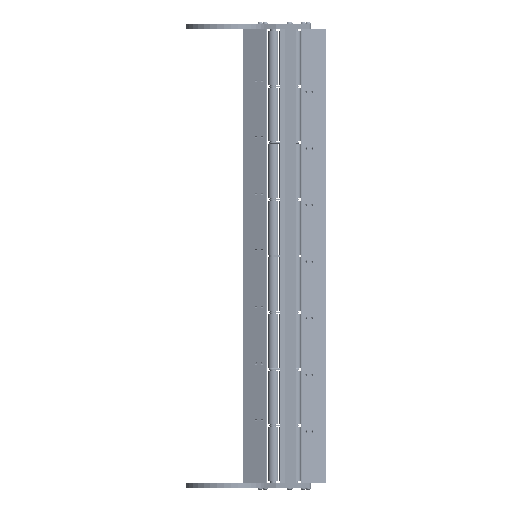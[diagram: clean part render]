
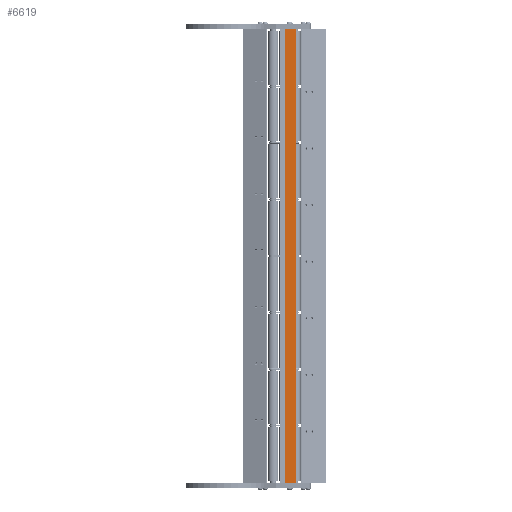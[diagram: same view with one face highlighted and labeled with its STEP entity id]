
A CAD part, front view. The second image highlights one B-rep face of the part: STEP entity #6619.
In plain terms, the highlighted planar face has unit normal (0.768, -0.641, 0) as drawn and (0, 1, 0) by its records, which use the part's own axes.
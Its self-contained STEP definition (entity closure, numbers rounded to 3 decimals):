
#512 = ORIENTED_EDGE ( 'NONE', *, *, #4703, .T. ) ;
#725 = EDGE_CURVE ( 'NONE', #9401, #6503, #18049, .T. ) ;
#1436 = CARTESIAN_POINT ( 'NONE',  ( 0., 13.9, 647. ) ) ;
#1841 = VECTOR ( 'NONE', #17958, 1000. ) ;
#2007 = VECTOR ( 'NONE', #14066, 1000. ) ;
#2465 = VECTOR ( 'NONE', #16424, 1000. ) ;
#2967 = CARTESIAN_POINT ( 'NONE',  ( 25., 13.9, 0. ) ) ;
#3056 = LINE ( 'NONE', #14782, #2465 ) ;
#4703 = EDGE_CURVE ( 'NONE', #9401, #5084, #18376, .T. ) ;
#5084 = VERTEX_POINT ( 'NONE', #2967 ) ;
#6503 = VERTEX_POINT ( 'NONE', #11245 ) ;
#6619 = ADVANCED_FACE ( 'NONE', ( #16221 ), #11719, .F. ) ;
#6833 = ORIENTED_EDGE ( 'NONE', *, *, #16497, .F. ) ;
#6988 = AXIS2_PLACEMENT_3D ( 'NONE', #8719, #14599, #17575 ) ;
#8616 = DIRECTION ( 'NONE',  ( 0., 0., -1. ) ) ;
#8719 = CARTESIAN_POINT ( 'NONE',  ( 25., 13.9, 647. ) ) ;
#9401 = VERTEX_POINT ( 'NONE', #15055 ) ;
#10626 = EDGE_CURVE ( 'NONE', #5084, #17235, #3056, .T. ) ;
#11087 = CARTESIAN_POINT ( 'NONE',  ( 25., 13.9, 647. ) ) ;
#11129 = VECTOR ( 'NONE', #8616, 1000. ) ;
#11245 = CARTESIAN_POINT ( 'NONE',  ( 0., 13.9, 647. ) ) ;
#11633 = ORIENTED_EDGE ( 'NONE', *, *, #725, .F. ) ;
#11719 = PLANE ( 'NONE',  #6988 ) ;
#12439 = EDGE_LOOP ( 'NONE', ( #14067, #6833, #11633, #512 ) ) ;
#12935 = CARTESIAN_POINT ( 'NONE',  ( 0., 13.9, 0. ) ) ;
#14066 = DIRECTION ( 'NONE',  ( 0., 0., -1. ) ) ;
#14067 = ORIENTED_EDGE ( 'NONE', *, *, #10626, .T. ) ;
#14599 = DIRECTION ( 'NONE',  ( 0., -1., 0. ) ) ;
#14782 = CARTESIAN_POINT ( 'NONE',  ( 25., 13.9, 0. ) ) ;
#15055 = CARTESIAN_POINT ( 'NONE',  ( 25., 13.9, 647. ) ) ;
#15262 = CARTESIAN_POINT ( 'NONE',  ( 25., 13.9, 647. ) ) ;
#16028 = LINE ( 'NONE', #1436, #11129 ) ;
#16221 = FACE_OUTER_BOUND ( 'NONE', #12439, .T. ) ;
#16424 = DIRECTION ( 'NONE',  ( -1., 0., 0. ) ) ;
#16497 = EDGE_CURVE ( 'NONE', #6503, #17235, #16028, .T. ) ;
#17235 = VERTEX_POINT ( 'NONE', #12935 ) ;
#17575 = DIRECTION ( 'NONE',  ( 1., 0., 0. ) ) ;
#17958 = DIRECTION ( 'NONE',  ( -1., 0., 0. ) ) ;
#18049 = LINE ( 'NONE', #15262, #1841 ) ;
#18376 = LINE ( 'NONE', #11087, #2007 ) ;
